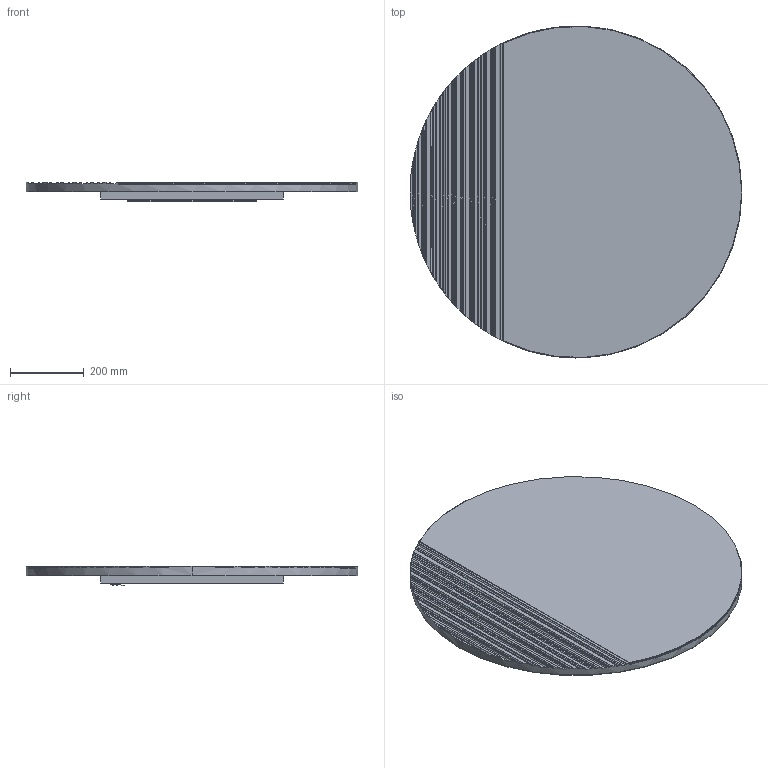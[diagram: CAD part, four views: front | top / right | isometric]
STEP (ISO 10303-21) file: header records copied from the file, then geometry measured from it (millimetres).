
FILE_DESCRIPTION (( 'STEP AP214' ), '1' );
FILE_NAME ('ASM MUSA Ø90.STEP', '2023-05-15T13:57:28', ( '' ), ( '' ), 'SwSTEP 2.0', 'SolidWorks 2022', '' );
FILE_SCHEMA (( 'AUTOMOTIVE_DESIGN' ));
Length unit declared in the file: millimetre
Products named in the file (4): ASM MUSA Ø90; Barra appendipensili SINGOLA NEW; Vite autofilettante 4,5x25; MUSA Ø90
Assembly tree (3 placements, depth 2):
  ASM MUSA Ø90
    MUSA Ø90
    Barra appendipensili SINGOLA NEW
    Vite autofilettante 4,5x25
Bounding box: 900 x 900 x 52 mm (x, y, z)
Volume: 17000006.5 mm3; surface area: 3908314.8 mm2
Topology: 10 solids, 10 shells, 342 faces, 817 edges, 495 vertices
Faces by surface type: plane 220, cylinder 111, cone 7, torus 2, sphere 2
Entity records: 10784 total; most frequent: CARTESIAN_POINT 2590, DIRECTION 1659, ORIENTED_EDGE 1630, EDGE_CURVE 815, AXIS2_PLACEMENT_3D 560, LINE 539, VECTOR 539, VERTEX_POINT 495
